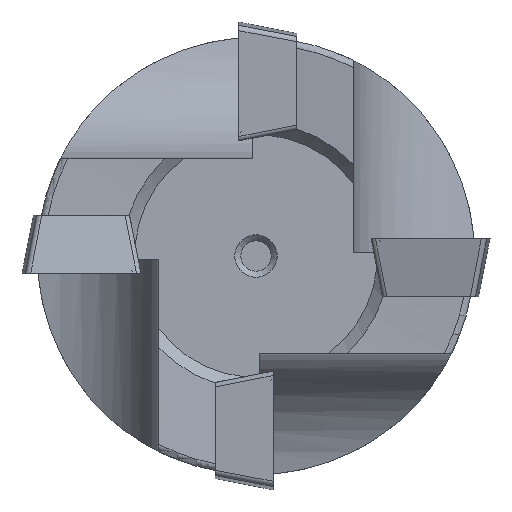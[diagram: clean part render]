
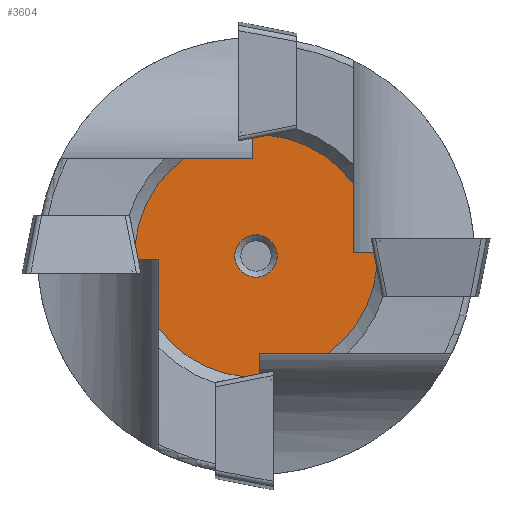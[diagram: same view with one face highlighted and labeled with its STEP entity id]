
A CAD part, left-side view. The second image highlights one B-rep face of the part: STEP entity #3604.
In plain terms, the highlighted planar face has unit normal (-1, 0, 0).
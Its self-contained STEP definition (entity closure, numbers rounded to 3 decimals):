
#186=FACE_BOUND('',#549,.T.);
#250=PLANE('',#3979);
#338=FACE_OUTER_BOUND('',#548,.T.);
#548=EDGE_LOOP('',(#2495,#2496,#2497,#2498,#2499,#2500,#2501,#2502,#2503,
#2504,#2505,#2506,#2507,#2508,#2509,#2510));
#549=EDGE_LOOP('',(#2511));
#970=LINE('',#5211,#1164);
#975=LINE('',#5242,#1169);
#980=LINE('',#5273,#1174);
#986=LINE('',#5329,#1180);
#992=LINE('',#5352,#1186);
#993=LINE('',#5353,#1187);
#994=LINE('',#5357,#1188);
#995=LINE('',#5358,#1189);
#996=LINE('',#5362,#1190);
#997=LINE('',#5363,#1191);
#998=LINE('',#5367,#1192);
#999=LINE('',#5368,#1193);
#1164=VECTOR('',#4309,10.);
#1169=VECTOR('',#4316,10.);
#1174=VECTOR('',#4323,10.);
#1180=VECTOR('',#4341,10.);
#1186=VECTOR('',#4363,10.);
#1187=VECTOR('',#4364,10.);
#1188=VECTOR('',#4367,10.);
#1189=VECTOR('',#4368,10.);
#1190=VECTOR('',#4371,10.);
#1191=VECTOR('',#4372,10.);
#1192=VECTOR('',#4375,10.);
#1193=VECTOR('',#4376,10.);
#1370=CIRCLE('',#3973,1.75);
#1375=CIRCLE('',#3980,10.);
#1376=CIRCLE('',#3981,10.);
#1377=CIRCLE('',#3982,10.);
#1378=CIRCLE('',#3983,10.);
#1488=VERTEX_POINT('',#5206);
#1489=VERTEX_POINT('',#5210);
#1495=VERTEX_POINT('',#5237);
#1496=VERTEX_POINT('',#5241);
#1502=VERTEX_POINT('',#5268);
#1503=VERTEX_POINT('',#5272);
#1514=VERTEX_POINT('',#5324);
#1515=VERTEX_POINT('',#5328);
#1518=VERTEX_POINT('',#5336);
#1523=VERTEX_POINT('',#5350);
#1524=VERTEX_POINT('',#5351);
#1525=VERTEX_POINT('',#5354);
#1526=VERTEX_POINT('',#5356);
#1527=VERTEX_POINT('',#5359);
#1528=VERTEX_POINT('',#5361);
#1529=VERTEX_POINT('',#5364);
#1530=VERTEX_POINT('',#5366);
#1871=EDGE_CURVE('',#1489,#1488,#970,.T.);
#1879=EDGE_CURVE('',#1496,#1495,#975,.T.);
#1887=EDGE_CURVE('',#1503,#1502,#980,.T.);
#1901=EDGE_CURVE('',#1515,#1514,#986,.T.);
#1905=EDGE_CURVE('',#1518,#1518,#1370,.T.);
#1912=EDGE_CURVE('',#1523,#1524,#992,.T.);
#1913=EDGE_CURVE('',#1524,#1503,#993,.T.);
#1914=EDGE_CURVE('',#1525,#1502,#1375,.T.);
#1915=EDGE_CURVE('',#1525,#1526,#994,.T.);
#1916=EDGE_CURVE('',#1526,#1515,#995,.T.);
#1917=EDGE_CURVE('',#1527,#1514,#1376,.T.);
#1918=EDGE_CURVE('',#1527,#1528,#996,.T.);
#1919=EDGE_CURVE('',#1528,#1489,#997,.T.);
#1920=EDGE_CURVE('',#1529,#1488,#1377,.T.);
#1921=EDGE_CURVE('',#1529,#1530,#998,.T.);
#1922=EDGE_CURVE('',#1530,#1496,#999,.T.);
#1923=EDGE_CURVE('',#1523,#1495,#1378,.T.);
#2495=ORIENTED_EDGE('',*,*,#1912,.T.);
#2496=ORIENTED_EDGE('',*,*,#1913,.T.);
#2497=ORIENTED_EDGE('',*,*,#1887,.T.);
#2498=ORIENTED_EDGE('',*,*,#1914,.F.);
#2499=ORIENTED_EDGE('',*,*,#1915,.T.);
#2500=ORIENTED_EDGE('',*,*,#1916,.T.);
#2501=ORIENTED_EDGE('',*,*,#1901,.T.);
#2502=ORIENTED_EDGE('',*,*,#1917,.F.);
#2503=ORIENTED_EDGE('',*,*,#1918,.T.);
#2504=ORIENTED_EDGE('',*,*,#1919,.T.);
#2505=ORIENTED_EDGE('',*,*,#1871,.T.);
#2506=ORIENTED_EDGE('',*,*,#1920,.F.);
#2507=ORIENTED_EDGE('',*,*,#1921,.T.);
#2508=ORIENTED_EDGE('',*,*,#1922,.T.);
#2509=ORIENTED_EDGE('',*,*,#1879,.T.);
#2510=ORIENTED_EDGE('',*,*,#1923,.F.);
#2511=ORIENTED_EDGE('',*,*,#1905,.F.);
#3604=ADVANCED_FACE('',(#338,#186),#250,.T.);
#3973=AXIS2_PLACEMENT_3D('',#5337,#4347,#4348);
#3979=AXIS2_PLACEMENT_3D('',#5349,#4361,#4362);
#3980=AXIS2_PLACEMENT_3D('',#5355,#4365,#4366);
#3981=AXIS2_PLACEMENT_3D('',#5360,#4369,#4370);
#3982=AXIS2_PLACEMENT_3D('',#5365,#4373,#4374);
#3983=AXIS2_PLACEMENT_3D('',#5369,#4377,#4378);
#4309=DIRECTION('',(0.,0.,1.));
#4316=DIRECTION('',(0.,1.,0.));
#4323=DIRECTION('',(0.,0.,-1.));
#4341=DIRECTION('',(0.,-1.,0.));
#4347=DIRECTION('center_axis',(-1.,0.,0.));
#4348=DIRECTION('ref_axis',(0.,0.,-1.));
#4361=DIRECTION('center_axis',(-1.,0.,0.));
#4362=DIRECTION('ref_axis',(0.,0.,1.));
#4363=DIRECTION('',(0.,-0.191,-0.982));
#4364=DIRECTION('',(0.,-1.,0.));
#4365=DIRECTION('center_axis',(1.,0.,0.));
#4366=DIRECTION('ref_axis',(0.,0.,-1.));
#4367=DIRECTION('',(0.,-0.982,0.191));
#4368=DIRECTION('',(0.,0.,1.));
#4369=DIRECTION('center_axis',(1.,0.,0.));
#4370=DIRECTION('ref_axis',(0.,0.,-1.));
#4371=DIRECTION('',(0.,0.191,0.982));
#4372=DIRECTION('',(0.,1.,0.));
#4373=DIRECTION('center_axis',(1.,0.,0.));
#4374=DIRECTION('ref_axis',(0.,0.,-1.));
#4375=DIRECTION('',(0.,0.982,-0.191));
#4376=DIRECTION('',(0.,0.,-1.));
#4377=DIRECTION('center_axis',(1.,0.,0.));
#4378=DIRECTION('ref_axis',(0.,0.,-1.));
#5206=CARTESIAN_POINT('',(-98.018,-8.,6.));
#5210=CARTESIAN_POINT('',(-98.018,-8.,0.25));
#5211=CARTESIAN_POINT('',(-98.018,-8.,4.125));
#5237=CARTESIAN_POINT('',(-98.018,6.,8.));
#5241=CARTESIAN_POINT('',(-98.018,0.25,8.));
#5242=CARTESIAN_POINT('',(-98.018,9.125,8.));
#5268=CARTESIAN_POINT('',(-98.018,8.,-6.));
#5272=CARTESIAN_POINT('',(-98.018,8.,-0.25));
#5273=CARTESIAN_POINT('',(-98.018,8.,-14.125));
#5324=CARTESIAN_POINT('',(-98.018,-6.,-8.));
#5328=CARTESIAN_POINT('',(-98.018,-0.25,-8.));
#5329=CARTESIAN_POINT('',(-98.018,-9.125,-8.));
#5336=CARTESIAN_POINT('',(-98.018,0.,1.75));
#5337=CARTESIAN_POINT('Origin',(-98.018,0.,0.));
#5349=CARTESIAN_POINT('Origin',(-98.018,0.,-10.));
#5350=CARTESIAN_POINT('',(-98.018,9.955,0.946));
#5351=CARTESIAN_POINT('',(-98.018,9.723,-0.25));
#5352=CARTESIAN_POINT('',(-98.018,8.769,-5.157));
#5353=CARTESIAN_POINT('',(-98.018,6.5,-0.25));
#5354=CARTESIAN_POINT('',(-98.018,0.946,-9.955));
#5355=CARTESIAN_POINT('Origin',(-98.018,0.,0.));
#5356=CARTESIAN_POINT('',(-98.018,-0.25,-9.723));
#5357=CARTESIAN_POINT('',(-98.018,0.598,-9.888));
#5358=CARTESIAN_POINT('',(-98.018,-0.25,-11.5));
#5359=CARTESIAN_POINT('',(-98.018,-9.955,-0.946));
#5360=CARTESIAN_POINT('Origin',(-98.018,0.,0.));
#5361=CARTESIAN_POINT('',(-98.018,-9.723,0.25));
#5362=CARTESIAN_POINT('',(-98.018,-10.642,-4.479));
#5363=CARTESIAN_POINT('',(-98.018,-6.5,0.25));
#5364=CARTESIAN_POINT('',(-98.018,-0.946,9.955));
#5365=CARTESIAN_POINT('Origin',(-98.018,0.,0.));
#5366=CARTESIAN_POINT('',(-98.018,0.25,9.723));
#5367=CARTESIAN_POINT('',(-98.018,1.275,9.523));
#5368=CARTESIAN_POINT('',(-98.018,0.25,1.5));
#5369=CARTESIAN_POINT('Origin',(-98.018,0.,0.));
